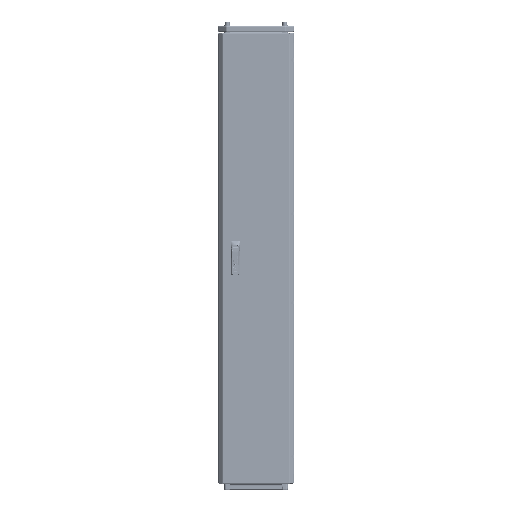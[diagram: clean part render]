
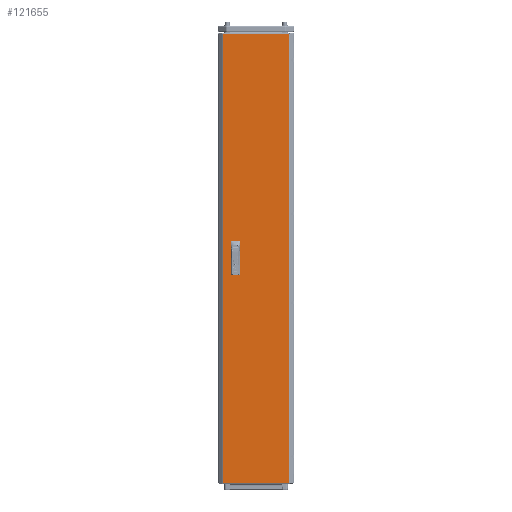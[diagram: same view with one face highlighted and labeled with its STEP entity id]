
A CAD part, top view. The second image highlights one B-rep face of the part: STEP entity #121655.
In plain terms, the highlighted planar face has unit normal (0, 0, 1).
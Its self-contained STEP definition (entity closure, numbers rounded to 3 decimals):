
#98 = AXIS2_PLACEMENT_3D ( 'NONE', #28433, #164057, #103024 ) ;
#2472 = ORIENTED_EDGE ( 'NONE', *, *, #101031, .T. ) ;
#3590 = ORIENTED_EDGE ( 'NONE', *, *, #226696, .F. ) ;
#3685 = EDGE_CURVE ( 'NONE', #34549, #55648, #203247, .T. ) ;
#11324 = FACE_BOUND ( 'NONE', #205129, .T. ) ;
#13229 = EDGE_CURVE ( 'NONE', #187021, #110674, #161383, .T. ) ;
#13857 = CARTESIAN_POINT ( 'NONE',  ( -92.5, -12.5, 0. ) ) ;
#17536 = VECTOR ( 'NONE', #199896, 1000. ) ;
#18987 = VECTOR ( 'NONE', #71298, 1000. ) ;
#19526 = VECTOR ( 'NONE', #27414, 1000. ) ;
#19595 = ORIENTED_EDGE ( 'NONE', *, *, #112286, .F. ) ;
#20022 = VERTEX_POINT ( 'NONE', #183012 ) ;
#21056 = EDGE_CURVE ( 'NONE', #20022, #112249, #23683, .T. ) ;
#23683 = LINE ( 'NONE', #192375, #42896 ) ;
#24170 = CARTESIAN_POINT ( 'NONE',  ( -127.875, -869.5, 0. ) ) ;
#27414 = DIRECTION ( 'NONE',  ( -1., 0., 0. ) ) ;
#28433 = CARTESIAN_POINT ( 'NONE',  ( 0., 0., 0. ) ) ;
#34549 = VERTEX_POINT ( 'NONE', #100459 ) ;
#42896 = VECTOR ( 'NONE', #60375, 1000. ) ;
#43712 = LINE ( 'NONE', #24170, #101557 ) ;
#46482 = DIRECTION ( 'NONE',  ( 0., -1., 0. ) ) ;
#46964 = LINE ( 'NONE', #66557, #19526 ) ;
#47444 = CARTESIAN_POINT ( 'NONE',  ( -67.5, 62.5, 0. ) ) ;
#51731 = DIRECTION ( 'NONE',  ( -1., 0., 0. ) ) ;
#51845 = CARTESIAN_POINT ( 'NONE',  ( -67.5, -62.5, 0. ) ) ;
#52096 = ORIENTED_EDGE ( 'NONE', *, *, #225945, .F. ) ;
#55171 = ORIENTED_EDGE ( 'NONE', *, *, #233825, .T. ) ;
#55648 = VERTEX_POINT ( 'NONE', #62090 ) ;
#60375 = DIRECTION ( 'NONE',  ( 0., 1., 0. ) ) ;
#62090 = CARTESIAN_POINT ( 'NONE',  ( -92.5, 12.5, 0. ) ) ;
#64531 = DIRECTION ( 'NONE',  ( 1., 0., 0. ) ) ;
#66557 = CARTESIAN_POINT ( 'NONE',  ( -127.875, 869.5, 0. ) ) ;
#68896 = CARTESIAN_POINT ( 'NONE',  ( -92.5, 12.5, 0. ) ) ;
#69872 = VERTEX_POINT ( 'NONE', #202263 ) ;
#71298 = DIRECTION ( 'NONE',  ( 0., -1., 0. ) ) ;
#75010 = CARTESIAN_POINT ( 'NONE',  ( 127.875, -869.5, 0. ) ) ;
#79146 = VECTOR ( 'NONE', #127239, 1000. ) ;
#80075 = EDGE_CURVE ( 'NONE', #69872, #145821, #46964, .T. ) ;
#85925 = FACE_BOUND ( 'NONE', #212862, .T. ) ;
#92354 = CARTESIAN_POINT ( 'NONE',  ( -92.5, -12.5, 0. ) ) ;
#93633 = ORIENTED_EDGE ( 'NONE', *, *, #13229, .F. ) ;
#97389 = DIRECTION ( 'NONE',  ( -1., 0., 0. ) ) ;
#98141 = VECTOR ( 'NONE', #163167, 1000. ) ;
#100459 = CARTESIAN_POINT ( 'NONE',  ( -92.5, 62.5, 0. ) ) ;
#101031 = EDGE_CURVE ( 'NONE', #126436, #69872, #163241, .T. ) ;
#101557 = VECTOR ( 'NONE', #64531, 1000. ) ;
#101712 = ORIENTED_EDGE ( 'NONE', *, *, #224796, .T. ) ;
#103024 = DIRECTION ( 'NONE',  ( -1., 0., 0. ) ) ;
#105754 = CARTESIAN_POINT ( 'NONE',  ( -92.5, 12.5, 0. ) ) ;
#109735 = LINE ( 'NONE', #187869, #199309 ) ;
#110674 = VERTEX_POINT ( 'NONE', #188111 ) ;
#112085 = LINE ( 'NONE', #223317, #131897 ) ;
#112125 = DIRECTION ( 'NONE',  ( 1., 0., 0. ) ) ;
#112249 = VERTEX_POINT ( 'NONE', #47444 ) ;
#112286 = EDGE_CURVE ( 'NONE', #110674, #202254, #109735, .T. ) ;
#114501 = LINE ( 'NONE', #130436, #202575 ) ;
#121655 = ADVANCED_FACE ( 'NONE', ( #11324, #85925, #217876 ), #195890, .F. ) ;
#121822 = ORIENTED_EDGE ( 'NONE', *, *, #80075, .T. ) ;
#122250 = CARTESIAN_POINT ( 'NONE',  ( -92.5, -62.5, 0. ) ) ;
#124766 = EDGE_CURVE ( 'NONE', #202254, #133418, #236092, .T. ) ;
#126436 = VERTEX_POINT ( 'NONE', #75010 ) ;
#127239 = DIRECTION ( 'NONE',  ( 0., 1., 0. ) ) ;
#129403 = CARTESIAN_POINT ( 'NONE',  ( -127.875, -869.5, 0. ) ) ;
#130436 = CARTESIAN_POINT ( 'NONE',  ( -92.5, 62.5, 0. ) ) ;
#131897 = VECTOR ( 'NONE', #132785, 1000. ) ;
#132785 = DIRECTION ( 'NONE',  ( 0., -1., 0. ) ) ;
#133418 = VERTEX_POINT ( 'NONE', #164105 ) ;
#144649 = LINE ( 'NONE', #13857, #205207 ) ;
#145821 = VERTEX_POINT ( 'NONE', #177589 ) ;
#156904 = VERTEX_POINT ( 'NONE', #129403 ) ;
#161383 = LINE ( 'NONE', #122250, #189528 ) ;
#161958 = LINE ( 'NONE', #105754, #98141 ) ;
#163167 = DIRECTION ( 'NONE',  ( 1., 0., 0. ) ) ;
#163241 = LINE ( 'NONE', #237813, #17536 ) ;
#164057 = DIRECTION ( 'NONE',  ( 0., 0., -1. ) ) ;
#164105 = CARTESIAN_POINT ( 'NONE',  ( -67.5, -12.5, 0. ) ) ;
#175666 = ORIENTED_EDGE ( 'NONE', *, *, #184998, .F. ) ;
#177589 = CARTESIAN_POINT ( 'NONE',  ( -127.875, 869.5, 0. ) ) ;
#182272 = CARTESIAN_POINT ( 'NONE',  ( -67.5, -62.5, 0. ) ) ;
#183012 = CARTESIAN_POINT ( 'NONE',  ( -67.5, 12.5, 0. ) ) ;
#184998 = EDGE_CURVE ( 'NONE', #55648, #20022, #161958, .T. ) ;
#187021 = VERTEX_POINT ( 'NONE', #92354 ) ;
#187869 = CARTESIAN_POINT ( 'NONE',  ( -92.5, -62.5, 0. ) ) ;
#188111 = CARTESIAN_POINT ( 'NONE',  ( -92.5, -62.5, 0. ) ) ;
#189528 = VECTOR ( 'NONE', #46482, 1000. ) ;
#189912 = ORIENTED_EDGE ( 'NONE', *, *, #21056, .F. ) ;
#192375 = CARTESIAN_POINT ( 'NONE',  ( -67.5, 12.5, 0. ) ) ;
#192432 = ORIENTED_EDGE ( 'NONE', *, *, #3685, .F. ) ;
#195890 = PLANE ( 'NONE',  #98 ) ;
#199309 = VECTOR ( 'NONE', #112125, 1000. ) ;
#199896 = DIRECTION ( 'NONE',  ( 0., 1., 0. ) ) ;
#202254 = VERTEX_POINT ( 'NONE', #51845 ) ;
#202263 = CARTESIAN_POINT ( 'NONE',  ( 127.875, 869.5, 0. ) ) ;
#202575 = VECTOR ( 'NONE', #97389, 1000. ) ;
#203247 = LINE ( 'NONE', #68896, #18987 ) ;
#205129 = EDGE_LOOP ( 'NONE', ( #52096, #189912, #175666, #192432 ) ) ;
#205207 = VECTOR ( 'NONE', #51731, 1000. ) ;
#212862 = EDGE_LOOP ( 'NONE', ( #3590, #226813, #19595, #93633 ) ) ;
#217876 = FACE_OUTER_BOUND ( 'NONE', #227435, .T. ) ;
#223317 = CARTESIAN_POINT ( 'NONE',  ( -127.875, -869.5, 0. ) ) ;
#224796 = EDGE_CURVE ( 'NONE', #145821, #156904, #112085, .T. ) ;
#225945 = EDGE_CURVE ( 'NONE', #112249, #34549, #114501, .T. ) ;
#226696 = EDGE_CURVE ( 'NONE', #133418, #187021, #144649, .T. ) ;
#226813 = ORIENTED_EDGE ( 'NONE', *, *, #124766, .F. ) ;
#227435 = EDGE_LOOP ( 'NONE', ( #2472, #121822, #101712, #55171 ) ) ;
#233825 = EDGE_CURVE ( 'NONE', #156904, #126436, #43712, .T. ) ;
#236092 = LINE ( 'NONE', #182272, #79146 ) ;
#237813 = CARTESIAN_POINT ( 'NONE',  ( 127.875, -869.5, 0. ) ) ;
